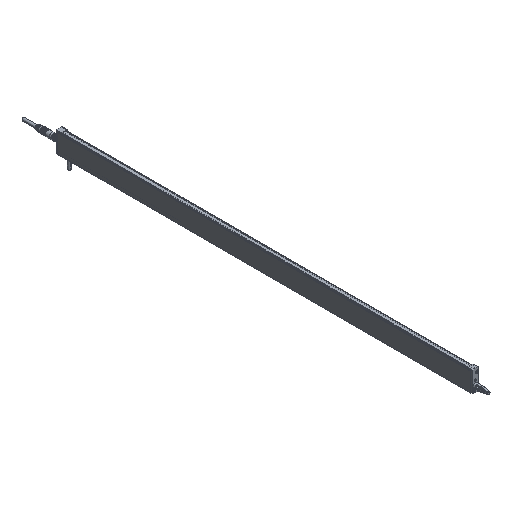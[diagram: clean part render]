
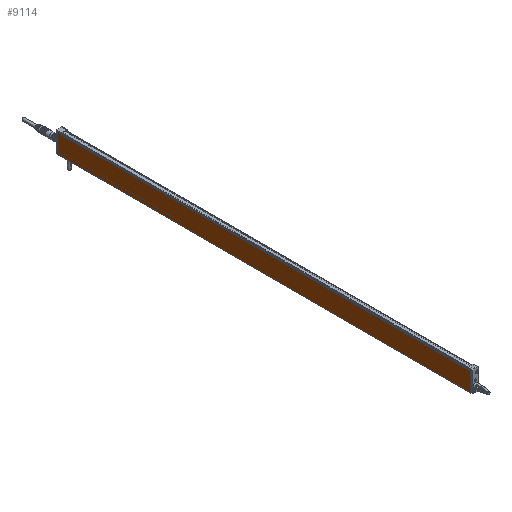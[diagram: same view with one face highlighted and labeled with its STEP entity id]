
A CAD part, isometric view. The second image highlights one B-rep face of the part: STEP entity #9114.
In plain terms, the highlighted planar face has unit normal (-1, 0, 0).
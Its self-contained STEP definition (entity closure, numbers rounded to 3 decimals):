
#2025 = PLANE ( 'NONE',  #10685 ) ;
#2125 = CARTESIAN_POINT ( 'NONE',  ( -9., 618., 28.5 ) ) ;
#2785 = EDGE_CURVE ( 'NONE', #32517, #14534, #26164, .T. ) ;
#3082 = CARTESIAN_POINT ( 'NONE',  ( -9., 0., 28.5 ) ) ;
#4028 = ORIENTED_EDGE ( 'NONE', *, *, #8769, .F. ) ;
#5081 = VERTEX_POINT ( 'NONE', #28133 ) ;
#5572 = VECTOR ( 'NONE', #20577, 1000. ) ;
#6482 = ORIENTED_EDGE ( 'NONE', *, *, #22575, .T. ) ;
#8769 = EDGE_CURVE ( 'NONE', #5081, #9168, #13701, .T. ) ;
#9114 = ADVANCED_FACE ( 'NONE', ( #22670 ), #2025, .T. ) ;
#9168 = VERTEX_POINT ( 'NONE', #25534 ) ;
#9553 = CARTESIAN_POINT ( 'NONE',  ( -9., 618., 0.5 ) ) ;
#10576 = EDGE_LOOP ( 'NONE', ( #17475, #4028, #6482, #26060 ) ) ;
#10685 = AXIS2_PLACEMENT_3D ( 'NONE', #2125, #28019, #12420 ) ;
#11962 = CARTESIAN_POINT ( 'NONE',  ( -9., 0., 0.5 ) ) ;
#12420 = DIRECTION ( 'NONE',  ( 0., -1., 0. ) ) ;
#13701 = LINE ( 'NONE', #26139, #28844 ) ;
#13769 = LINE ( 'NONE', #25616, #5572 ) ;
#14534 = VERTEX_POINT ( 'NONE', #11962 ) ;
#16420 = CARTESIAN_POINT ( 'NONE',  ( -9., 618., 0.5 ) ) ;
#17475 = ORIENTED_EDGE ( 'NONE', *, *, #30393, .F. ) ;
#19921 = DIRECTION ( 'NONE',  ( 0., -1., 0. ) ) ;
#20577 = DIRECTION ( 'NONE',  ( 0., 0., -1. ) ) ;
#21422 = LINE ( 'NONE', #3082, #28801 ) ;
#21732 = DIRECTION ( 'NONE',  ( 0., 0., -1. ) ) ;
#22575 = EDGE_CURVE ( 'NONE', #5081, #32517, #13769, .T. ) ;
#22670 = FACE_OUTER_BOUND ( 'NONE', #10576, .T. ) ;
#25534 = CARTESIAN_POINT ( 'NONE',  ( -9., 0., 28.5 ) ) ;
#25616 = CARTESIAN_POINT ( 'NONE',  ( -9., 618., 28.5 ) ) ;
#26060 = ORIENTED_EDGE ( 'NONE', *, *, #2785, .T. ) ;
#26139 = CARTESIAN_POINT ( 'NONE',  ( -9., 618., 28.5 ) ) ;
#26164 = LINE ( 'NONE', #9553, #33132 ) ;
#26250 = DIRECTION ( 'NONE',  ( 0., -1., 0. ) ) ;
#28019 = DIRECTION ( 'NONE',  ( -1., 0., 0. ) ) ;
#28133 = CARTESIAN_POINT ( 'NONE',  ( -9., 618., 28.5 ) ) ;
#28801 = VECTOR ( 'NONE', #21732, 1000. ) ;
#28844 = VECTOR ( 'NONE', #26250, 1000. ) ;
#30393 = EDGE_CURVE ( 'NONE', #9168, #14534, #21422, .T. ) ;
#32517 = VERTEX_POINT ( 'NONE', #16420 ) ;
#33132 = VECTOR ( 'NONE', #19921, 1000. ) ;
